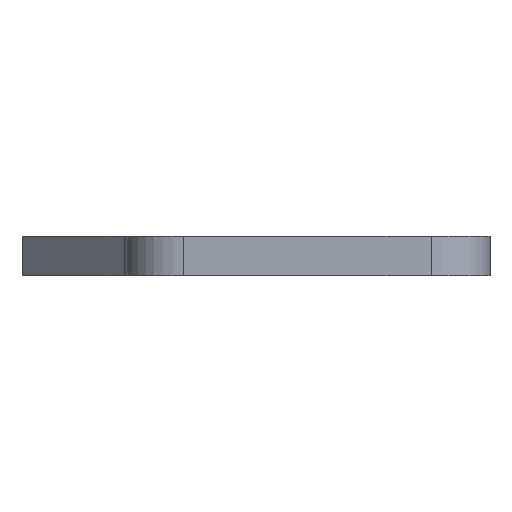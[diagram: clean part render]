
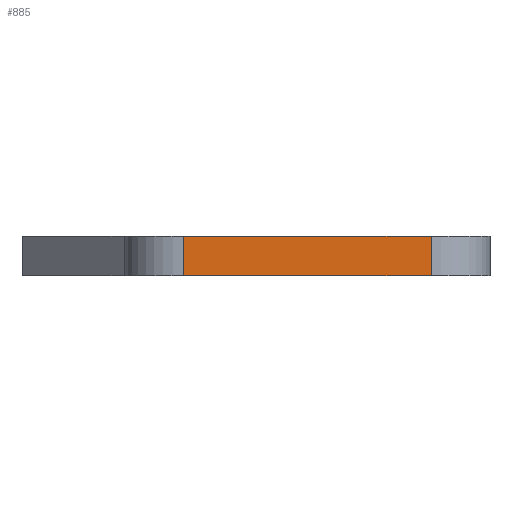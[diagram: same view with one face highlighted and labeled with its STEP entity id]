
A CAD part, left-side view. The second image highlights one B-rep face of the part: STEP entity #885.
In plain terms, the highlighted planar face has unit normal (-1, 0, 0).
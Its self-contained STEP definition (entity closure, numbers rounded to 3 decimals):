
#48=PLANE('',#994);
#92=FACE_OUTER_BOUND('',#148,.T.);
#148=EDGE_LOOP('',(#814,#815,#816,#817));
#160=LINE('',#1294,#244);
#185=LINE('',#1381,#269);
#187=LINE('',#1387,#271);
#197=LINE('',#1410,#281);
#244=VECTOR('',#1032,10.);
#269=VECTOR('',#1107,10.);
#271=VECTOR('',#1113,10.);
#281=VECTOR('',#1141,10.);
#375=VERTEX_POINT('',#1291);
#376=VERTEX_POINT('',#1293);
#413=VERTEX_POINT('',#1379);
#414=VERTEX_POINT('',#1383);
#462=EDGE_CURVE('',#376,#375,#160,.T.);
#506=EDGE_CURVE('',#413,#375,#185,.T.);
#509=EDGE_CURVE('',#376,#414,#187,.T.);
#521=EDGE_CURVE('',#413,#414,#197,.T.);
#814=ORIENTED_EDGE('',*,*,#506,.F.);
#815=ORIENTED_EDGE('',*,*,#521,.T.);
#816=ORIENTED_EDGE('',*,*,#509,.F.);
#817=ORIENTED_EDGE('',*,*,#462,.T.);
#885=ADVANCED_FACE('',(#92),#48,.T.);
#994=AXIS2_PLACEMENT_3D('',#1507,#1250,#1251);
#1032=DIRECTION('',(0.,-1.,0.));
#1107=DIRECTION('',(0.,0.,-1.));
#1113=DIRECTION('',(0.,0.,1.));
#1141=DIRECTION('',(0.,1.,0.));
#1250=DIRECTION('center_axis',(-1.,0.,0.));
#1251=DIRECTION('ref_axis',(0.,0.,1.));
#1291=CARTESIAN_POINT('',(-550.,6.,0.));
#1293=CARTESIAN_POINT('',(-550.,31.25,0.));
#1294=CARTESIAN_POINT('',(-550.,37.25,0.));
#1379=CARTESIAN_POINT('',(-550.,6.,4.));
#1381=CARTESIAN_POINT('',(-550.,6.,0.));
#1383=CARTESIAN_POINT('',(-550.,31.25,4.));
#1387=CARTESIAN_POINT('',(-550.,31.25,0.));
#1410=CARTESIAN_POINT('',(-550.,37.25,4.));
#1507=CARTESIAN_POINT('Origin',(-550.,0.,0.));
